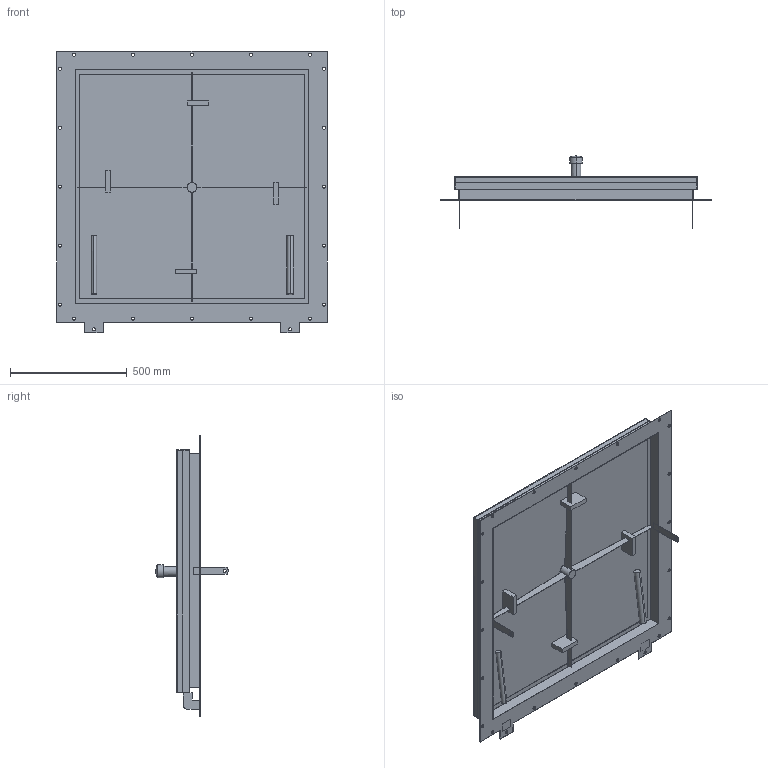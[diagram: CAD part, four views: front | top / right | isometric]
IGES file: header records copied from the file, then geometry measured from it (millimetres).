
Start section:  PTC IGES file: 51802362.igs
Global section: file name: 51802362.igs; native system: Creo Parametric by PTC Inc.; preprocessor: 2022162; author: wep; organization: Unknown; date: 20241017.105716; units: millimetre
Bounding box: 1160 x 310 x 1205 mm (x, y, z)
Surface area: 6335463 mm2 (no closed solid volume)
Topology: 0 solids, 0 shells, 206 faces, 1058 edges, 1056 vertices
Faces by surface type: bspline 140, revolution 66
